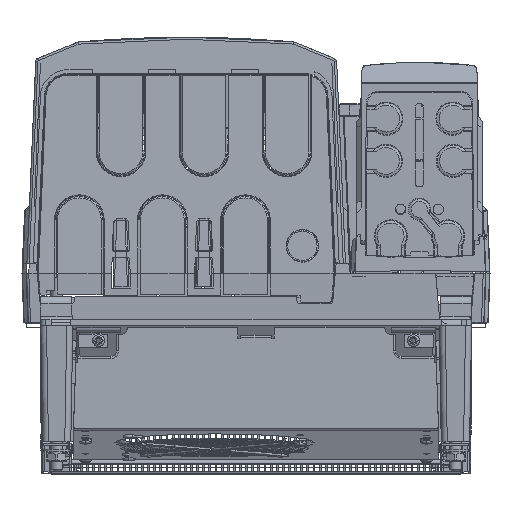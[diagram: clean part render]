
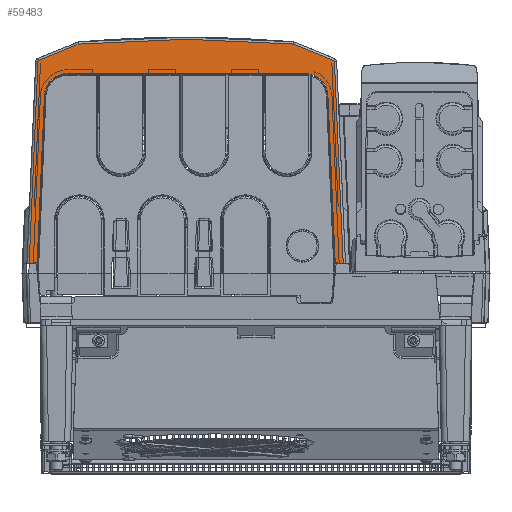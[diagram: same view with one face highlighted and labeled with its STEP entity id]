
A CAD part, front view. The second image highlights one B-rep face of the part: STEP entity #59483.
In plain terms, the highlighted planar face has unit normal (0, -0.999, 0.044).
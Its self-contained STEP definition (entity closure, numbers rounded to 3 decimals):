
#50544=DIRECTION('',(0.044,-0.044,-0.998));
#50545=VECTOR('',#50544,134.297);
#50546=CARTESIAN_POINT('',(51.923,-628.825,
139.042));
#50547=LINE('',#50546,#50545);
#50548=DIRECTION('',(-1.,0.,0.));
#50549=VECTOR('',#50548,5.278);
#50550=CARTESIAN_POINT('',(57.775,-634.677,
5.));
#50551=LINE('',#50550,#50549);
#50552=DIRECTION('',(-0.044,0.044,0.998));
#50553=VECTOR('',#50552,111.67);
#50554=CARTESIAN_POINT('',(52.497,-634.677,
5.));
#50555=LINE('',#50554,#50553);
#50556=CARTESIAN_POINT('',(47.631,-629.811,
116.457));
#50557=CARTESIAN_POINT('',(47.527,-629.706,
118.847));
#50558=CARTESIAN_POINT('',(46.353,-629.542,
122.62));
#50559=CARTESIAN_POINT('',(43.225,-629.357,
126.852));
#50560=CARTESIAN_POINT('',(38.861,-629.228,
129.794));
#50561=CARTESIAN_POINT('',(35.039,-629.184,
130.803));
#50562=CARTESIAN_POINT('',(32.645,-629.184,
130.803));
#50564=DIRECTION('',(-1.,0.,0.));
#50565=VECTOR('',#50564,157.8);
#50566=CARTESIAN_POINT('',(32.645,-629.184,
130.803));
#50567=LINE('',#50566,#50565);
#50568=CARTESIAN_POINT('',(-125.155,-629.184,
130.803));
#50569=CARTESIAN_POINT('',(-127.55,-629.184,
130.803));
#50570=CARTESIAN_POINT('',(-131.371,-629.228,
129.794));
#50571=CARTESIAN_POINT('',(-135.735,-629.357,
126.852));
#50572=CARTESIAN_POINT('',(-138.863,-629.542,
122.62));
#50573=CARTESIAN_POINT('',(-140.037,-629.706,
118.847));
#50574=CARTESIAN_POINT('',(-140.141,-629.811,
116.457));
#50576=DIRECTION('',(-0.044,-0.044,-0.998));
#50577=VECTOR('',#50576,111.67);
#50578=CARTESIAN_POINT('',(-140.141,-629.811,
116.457));
#50579=LINE('',#50578,#50577);
#50580=DIRECTION('',(-1.,0.,0.));
#50581=VECTOR('',#50580,5.278);
#50582=CARTESIAN_POINT('',(-145.007,-634.677,
5.));
#50583=LINE('',#50582,#50581);
#50584=DIRECTION('',(0.044,0.044,0.998));
#50585=VECTOR('',#50584,134.297);
#50586=CARTESIAN_POINT('',(-150.285,-634.677,
5.));
#50587=LINE('',#50586,#50585);
#50588=CARTESIAN_POINT('',(-144.433,-628.825,
139.042));
#50589=CARTESIAN_POINT('',(-144.432,-628.824,
139.066));
#50590=CARTESIAN_POINT('',(-144.426,-628.821,
139.113));
#50591=CARTESIAN_POINT('',(-144.408,-628.818,
139.182));
#50592=CARTESIAN_POINT('',(-144.38,-628.816,
139.25));
#50593=CARTESIAN_POINT('',(-144.34,-628.813,
139.315));
#50594=CARTESIAN_POINT('',(-144.286,-628.81,
139.378));
#50595=CARTESIAN_POINT('',(-144.215,-628.807,
139.437));
#50596=CARTESIAN_POINT('',(-144.155,-628.806,
139.47));
#50597=CARTESIAN_POINT('',(-144.122,-628.805,
139.483));
#50599=DIRECTION('',(0.926,0.016,0.376));
#50600=VECTOR('',#50599,29.021);
#50601=CARTESIAN_POINT('',(-144.122,-628.805,
139.483));
#50602=LINE('',#50601,#50600);
#50603=CARTESIAN_POINT('',(-117.238,-628.329,
150.404));
#50604=CARTESIAN_POINT('',(-101.487,-628.267,
151.81));
#50605=CARTESIAN_POINT('',(-69.968,-628.185,
153.682));
#50606=CARTESIAN_POINT('',(-22.542,-628.185,
153.682));
#50607=CARTESIAN_POINT('',(8.977,-628.267,
151.81));
#50608=CARTESIAN_POINT('',(24.728,-628.329,
150.404));
#50610=DIRECTION('',(0.926,-0.016,-0.376));
#50611=VECTOR('',#50610,29.021);
#50612=CARTESIAN_POINT('',(24.728,-628.329,
150.404));
#50613=LINE('',#50612,#50611);
#50614=CARTESIAN_POINT('',(51.611,-628.805,
139.483));
#50615=CARTESIAN_POINT('',(51.634,-628.806,
139.474));
#50616=CARTESIAN_POINT('',(51.678,-628.807,
139.453));
#50617=CARTESIAN_POINT('',(51.738,-628.808,
139.411));
#50618=CARTESIAN_POINT('',(51.791,-628.811,139.361));
#50619=CARTESIAN_POINT('',(51.839,-628.813,
139.301));
#50620=CARTESIAN_POINT('',(51.88,-628.816,
139.23));
#50621=CARTESIAN_POINT('',(51.911,-628.82,
139.144));
#50622=CARTESIAN_POINT('',(51.921,-628.823,
139.078));
#50623=CARTESIAN_POINT('',(51.923,-628.825,
139.042));
#57376=VERTEX_POINT('',#50568);
#57377=VERTEX_POINT('',#50574);
#57378=VERTEX_POINT('',#50562);
#57379=VERTEX_POINT('',#50556);
#57429=VERTEX_POINT('',#50614);
#57430=VERTEX_POINT('',#50623);
#57435=CARTESIAN_POINT('',(24.728,-628.329,
150.404));
#57436=VERTEX_POINT('',#57435);
#57439=VERTEX_POINT('',#50603);
#57444=CARTESIAN_POINT('',(-144.122,-628.805,
139.483));
#57445=VERTEX_POINT('',#57444);
#57447=VERTEX_POINT('',#50588);
#58944=CARTESIAN_POINT('',(57.775,-634.677,
5.));
#58945=VERTEX_POINT('',#58944);
#58950=CARTESIAN_POINT('',(-150.285,-634.677,
5.));
#58951=VERTEX_POINT('',#58950);
#58954=CARTESIAN_POINT('',(52.497,-634.677,
5.));
#58955=VERTEX_POINT('',#58954);
#58956=CARTESIAN_POINT('',(-145.007,-634.677,
5.));
#58957=VERTEX_POINT('',#58956);
#59448=CARTESIAN_POINT('',(-161.951,-634.895,
0.));
#59449=DIRECTION('',(0.,-0.999,0.044));
#59450=DIRECTION('',(-1.,0.,0.));
#59451=AXIS2_PLACEMENT_3D('',#59448,#59449,#59450);
#59452=PLANE('',#59451);
#59454=ORIENTED_EDGE('',*,*,#59453,.T.);
#59456=ORIENTED_EDGE('',*,*,#59455,.T.);
#59458=ORIENTED_EDGE('',*,*,#59457,.T.);
#59460=ORIENTED_EDGE('',*,*,#59459,.T.);
#59462=ORIENTED_EDGE('',*,*,#59461,.T.);
#59464=ORIENTED_EDGE('',*,*,#59463,.T.);
#59466=ORIENTED_EDGE('',*,*,#59465,.T.);
#59468=ORIENTED_EDGE('',*,*,#59467,.T.);
#59470=ORIENTED_EDGE('',*,*,#59469,.T.);
#59472=ORIENTED_EDGE('',*,*,#59471,.T.);
#59474=ORIENTED_EDGE('',*,*,#59473,.T.);
#59476=ORIENTED_EDGE('',*,*,#59475,.T.);
#59478=ORIENTED_EDGE('',*,*,#59477,.T.);
#59480=ORIENTED_EDGE('',*,*,#59479,.T.);
#59481=EDGE_LOOP('',(#59454,#59456,#59458,#59460,#59462,#59464,#59466,#59468,
#59470,#59472,#59474,#59476,#59478,#59480));
#59482=FACE_OUTER_BOUND('',#59481,.F.);
#59483=ADVANCED_FACE('',(#59482),#59452,.T.);
#50563=B_SPLINE_CURVE_WITH_KNOTS('',3,(#50556,#50557,#50558,#50559,#50560,
#50561,#50562),.UNSPECIFIED.,.F.,.F.,(4,1,1,1,4),(0.,0.25,0.5,0.75,
1.),.UNSPECIFIED.);
#50575=B_SPLINE_CURVE_WITH_KNOTS('',3,(#50568,#50569,#50570,#50571,#50572,
#50573,#50574),.UNSPECIFIED.,.F.,.F.,(4,1,1,1,4),(0.,0.25,0.5,0.75,
1.),.UNSPECIFIED.);
#50598=B_SPLINE_CURVE_WITH_KNOTS('',3,(#50588,#50589,#50590,#50591,#50592,
#50593,#50594,#50595,#50596,#50597),.UNSPECIFIED.,.F.,.F.,(4,1,1,1,1,1,1,4),(
0.,0.143,0.286,0.429,0.571,
0.714,0.857,1.),.UNSPECIFIED.);
#50609=B_SPLINE_CURVE_WITH_KNOTS('',3,(#50603,#50604,#50605,#50606,#50607,
#50608),.UNSPECIFIED.,.F.,.F.,(4,1,1,4),(0.,0.333,
0.667,1.),.UNSPECIFIED.);
#50624=B_SPLINE_CURVE_WITH_KNOTS('',3,(#50614,#50615,#50616,#50617,#50618,
#50619,#50620,#50621,#50622,#50623),.UNSPECIFIED.,.F.,.F.,(4,1,1,1,1,1,1,4),(
0.,0.143,0.286,0.429,0.571,
0.714,0.857,1.),.UNSPECIFIED.);
#59453=EDGE_CURVE('',#57430,#58945,#50547,.T.);
#59455=EDGE_CURVE('',#58945,#58955,#50551,.T.);
#59457=EDGE_CURVE('',#58955,#57379,#50555,.T.);
#59459=EDGE_CURVE('',#57379,#57378,#50563,.T.);
#59461=EDGE_CURVE('',#57378,#57376,#50567,.T.);
#59463=EDGE_CURVE('',#57376,#57377,#50575,.T.);
#59465=EDGE_CURVE('',#57377,#58957,#50579,.T.);
#59467=EDGE_CURVE('',#58957,#58951,#50583,.T.);
#59469=EDGE_CURVE('',#58951,#57447,#50587,.T.);
#59471=EDGE_CURVE('',#57447,#57445,#50598,.T.);
#59473=EDGE_CURVE('',#57445,#57439,#50602,.T.);
#59475=EDGE_CURVE('',#57439,#57436,#50609,.T.);
#59477=EDGE_CURVE('',#57436,#57429,#50613,.T.);
#59479=EDGE_CURVE('',#57429,#57430,#50624,.T.);
